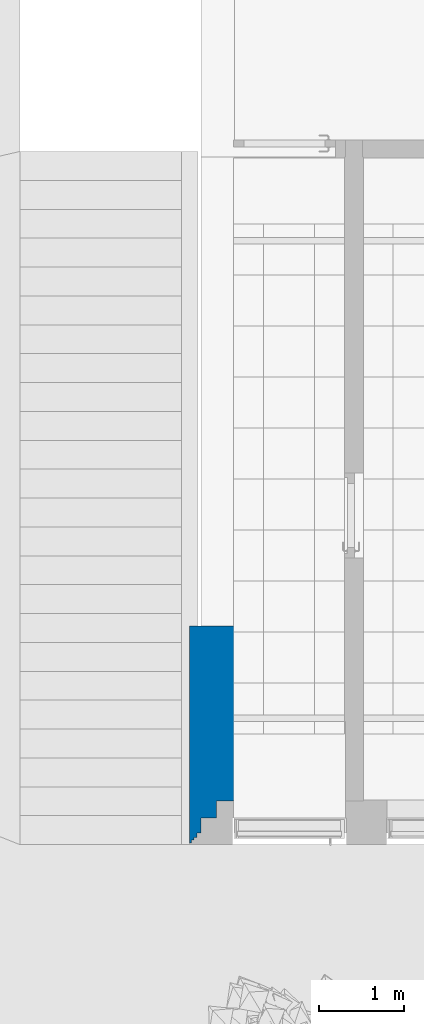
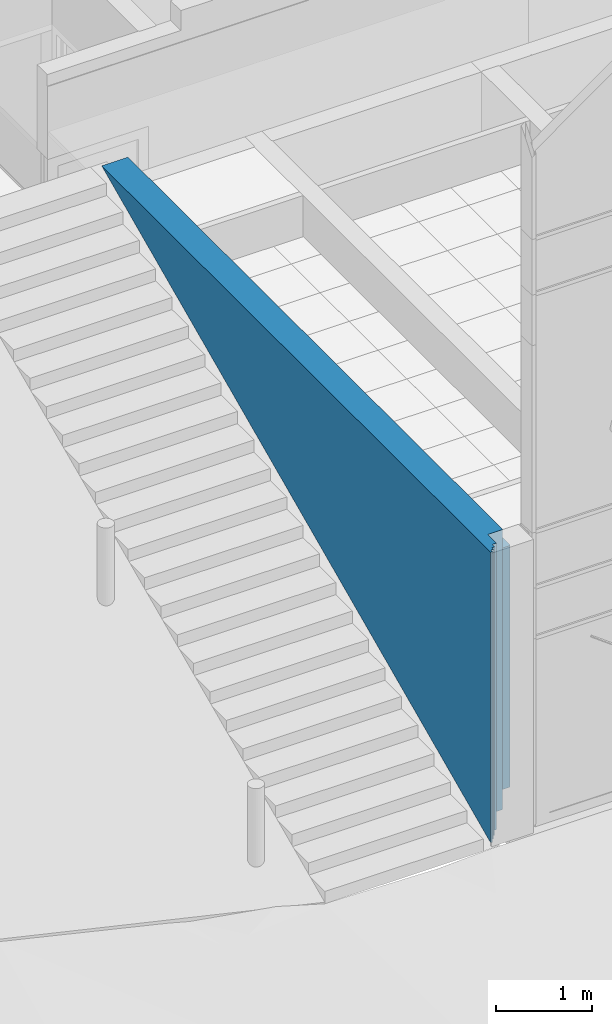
# One storey, part 112 of 246: 1 wall.
"""IFC2X3 building model written with IfcOpenShell, lengths in millimetres."""

from ifc_helpers import new_model, entity, si_unit, converted_unit, derived_unit, money_unit, direction, frame, origin_with_axes, place, context, subcontext, project, spatial, faceted_brep, material, material_list, type_object, element, save


model = new_model("IFC2X3")

# Units and contexts
model_context = context("Model", 3, precision=0.01, world=origin_with_axes(), true_north=direction((0.0, 1.0)))
body_context = subcontext(model_context, "Body", "Model", "MODEL_VIEW")
ifc_project = project(units=[si_unit("LENGTHUNIT", "METRE", prefix="MILLI"), si_unit("AREAUNIT", "SQUARE_METRE"), si_unit("VOLUMEUNIT", "CUBIC_METRE"), converted_unit("PLANEANGLEUNIT", "DEGREE", entity("IfcPlaneAngleMeasure", 0.0174532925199), si_unit("PLANEANGLEUNIT", "RADIAN"), dimensions=[0, 0, 0, 0, 0, 0, 0]), si_unit("SOLIDANGLEUNIT", "STERADIAN"), money_unit("EUR"), converted_unit("TIMEUNIT", "Year", entity("IfcTimeMeasure", 31556926.0), si_unit("TIMEUNIT", "SECOND"), dimensions=[0, 0, 1, 0, 0, 0, 0]), si_unit("MASSUNIT", "GRAM", prefix="KILO"), si_unit("THERMODYNAMICTEMPERATUREUNIT", "DEGREE_CELSIUS"), si_unit("LUMINOUSINTENSITYUNIT", "LUMEN"), si_unit("ENERGYUNIT", "JOULE", prefix="MEGA"), derived_unit("THERMALCONDUCTANCEUNIT", [(si_unit("POWERUNIT", "WATT"), 1), (si_unit("LENGTHUNIT", "METRE"), -1), (si_unit("THERMODYNAMICTEMPERATUREUNIT", "KELVIN"), -1)]), derived_unit("SPECIFICHEATCAPACITYUNIT", [(si_unit("ENERGYUNIT", "JOULE"), 1), (si_unit("MASSUNIT", "GRAM", prefix="KILO"), -1), (si_unit("THERMODYNAMICTEMPERATUREUNIT", "KELVIN"), -1)]), derived_unit("MASSDENSITYUNIT", [(si_unit("MASSUNIT", "GRAM", prefix="KILO"), 1), (si_unit("VOLUMEUNIT", "CUBIC_METRE"), -1)])], contexts=[model_context])

# Site, building, storey
site_placement = place(None, origin_with_axes())
site = spatial("IfcSite", under=ifc_project, at=site_placement, Name="L.Koidula tn 11b", CompositionType="ELEMENT")
building_placement = place(site_placement, origin_with_axes())
building = spatial("IfcBuilding", under=site, at=building_placement, Name="Rakvere Riigigümnaasium", CompositionType="ELEMENT")
storey_placement = place(building_placement, origin_with_axes())
storey = spatial("IfcBuildingStorey", under=building, at=storey_placement, Name="1.korrus 0,00", CompositionType="ELEMENT", Elevation=0.0)

# Wall
ifc_material_1 = material(Name="Krohv")
ifc_material_2 = material(Name="Betoon-element")
ifc_material_3 = material(Name="FF-PIR soojustus")
ifc_material_4 = material(Name="Tuuletõke (RKL Facade)")
ifc_material_5 = material(Name="Salto-roovitus")
ifc_material_6 = material(Name="Puit-fassaad")
ifc_material_list = material_list([ifc_material_1, ifc_material_2, ifc_material_3, ifc_material_4, ifc_material_5, ifc_material_5, ifc_material_6])
wall_type = type_object("IfcWallType", Name="VS-01-1 524", PredefinedType="NOTDEFINED")
wall_placement = place(storey_placement, frame((35500.0000521, 13280.4543717, 0.0), z_axis=(0.0, 0.0, 1.0), x_axis=(0.0, -1.0, 0.0)))
element("IfcWall", 1, at=wall_placement, inside=storey, type_object=wall_type, material=ifc_material_list, Name="Välissein", context=body_context, shape_type="Brep", body=[
    faceted_brep([(7769.99883287, 10.0, 268.904885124), (1066.93857789, 10.0, 3325.0), (7769.99883287, 10.0, 3325.0), (1066.93857789, 0.0, 3325.0), (7769.99883287, 0.0, 268.904885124), (7769.99883287, 0.0, 3325.0)], [[[0, 1, 2]], [[3, 1, 0, 4]], [[1, 3, 5, 2]], [[4, 0, 2, 5]], [[3, 4, 5]]]),
    faceted_brep([(7779.99883287, 0.0, 264.345631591), (1066.93857789, 0.0, 3325.0), (7779.99883287, 0.0, 3325.0), (1066.93857789, -198.639259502, 3325.0), (7779.99883287, -200.0, 264.345631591), (200.568683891, -200.0, 3720.0), (200.568683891, -198.639259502, 3720.0), (7779.99883287, -198.639259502, 3325.0), (7779.99883287, -198.639259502, 3720.0), (7779.99883287, -200.0, 3720.0)], [[[0, 1, 2]], [[3, 1, 0, 4, 5, 6]], [[1, 3, 7, 2]], [[4, 0, 2, 7, 8, 9]], [[5, 4, 9]], [[6, 5, 9, 8]], [[3, 6, 8, 7]]]),
    faceted_brep([(7979.99883287, -200.0, 173.160560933), (200.568683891, -200.0, 3720.0), (7979.99883287, -200.0, 3720.0), (200.568683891, -380.0, 3720.0), (7979.99883287, -380.0, 173.160560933), (7979.99883287, -380.0, 3720.0)], [[[0, 1, 2]], [[3, 1, 0, 4]], [[1, 3, 5, 2]], [[4, 0, 2, 5]], [[3, 4, 5]]]),
    faceted_brep([(8159.99883287, -380.0, 91.0939973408), (200.568683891, -380.0, 3720.0), (8159.99883287, -380.0, 3720.0), (200.568683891, -430.0, 3720.0), (8159.99883287, -430.0, 91.0939973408), (8159.99883287, -430.0, 3720.0)], [[[0, 1, 2]], [[3, 1, 0, 4]], [[1, 3, 5, 2]], [[4, 0, 2, 5]], [[3, 4, 5]]]),
    faceted_brep([(8209.99883287, -430.0, 68.2977296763), (200.568683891, -430.0, 3720.0), (8209.99883287, -430.0, 3720.0), (200.568683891, -462.0, 3720.0), (8209.99883287, -462.0, 68.2977296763), (8209.99883287, -462.0, 3720.0)], [[[0, 1, 2]], [[3, 1, 0, 4]], [[1, 3, 5, 2]], [[4, 0, 2, 5]], [[3, 4, 5]]]),
    faceted_brep([(8241.99883287, -462.0, 53.7081183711), (200.568683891, -462.0, 3720.0), (8241.99883287, -462.0, 3720.0), (200.568683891, -494.0, 3720.0), (8241.99883287, -494.0, 53.7081183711), (8241.99883287, -494.0, 3720.0)], [[[0, 1, 2]], [[3, 1, 0, 4]], [[1, 3, 5, 2]], [[4, 0, 2, 5]], [[3, 4, 5]]]),
    faceted_brep([(8273.99883287, -494.0, 39.1185070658), (200.568683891, -494.0, 3720.0), (8273.99883287, -494.0, 3720.0), (200.568683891, -514.0, 3720.0), (8273.99883287, -514.0, 39.1185070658), (8273.99883287, -514.0, 3720.0)], [[[0, 1, 2]], [[3, 1, 0, 4]], [[1, 3, 5, 2]], [[4, 0, 2, 5]], [[3, 4, 5]]]),
])

save(model, "model.ifc")
